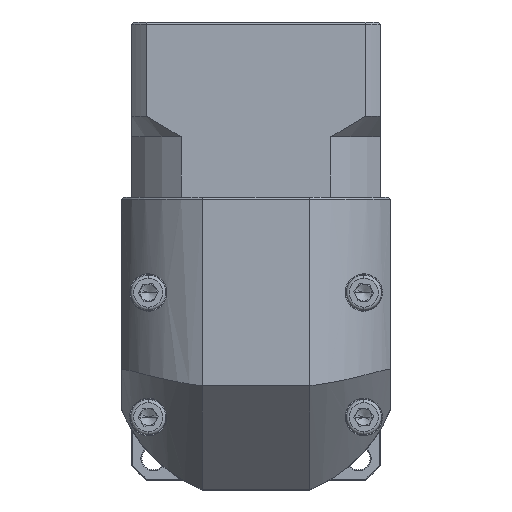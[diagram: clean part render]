
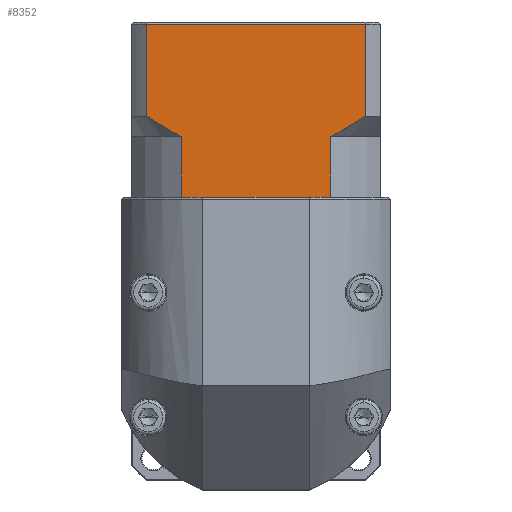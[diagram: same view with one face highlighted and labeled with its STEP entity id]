
A CAD part, top view. The second image highlights one B-rep face of the part: STEP entity #8352.
In plain terms, the highlighted planar face has unit normal (0, 0, 1).
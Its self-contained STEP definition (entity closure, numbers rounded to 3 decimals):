
#939 = ORIENTED_EDGE ( 'NONE', *, *, #84742, .F. ) ;
#1378 = EDGE_CURVE ( 'NONE', #68281, #2376, #44003, .T. ) ;
#2165 = LINE ( 'NONE', #85138, #31568 ) ;
#2376 = VERTEX_POINT ( 'NONE', #25020 ) ;
#4502 = CARTESIAN_POINT ( 'NONE',  ( -37.2, 98.893, 65.811 ) ) ;
#5467 = VECTOR ( 'NONE', #61260, 1000. ) ;
#5829 = VECTOR ( 'NONE', #82528, 1000. ) ;
#5991 = CARTESIAN_POINT ( 'NONE',  ( -90.116, 98.893, 65.811 ) ) ;
#6626 = EDGE_CURVE ( 'NONE', #29846, #10240, #33206, .T. ) ;
#7299 = CARTESIAN_POINT ( 'NONE',  ( -80.695, 57.193, 65.811 ) ) ;
#8352 = ADVANCED_FACE ( 'NONE', ( #92761 ), #57585, .F. ) ;
#9279 = DIRECTION ( 'NONE',  ( 0., 0., -1. ) ) ;
#10240 = VERTEX_POINT ( 'NONE', #28774 ) ;
#10310 = DIRECTION ( 'NONE',  ( -1., 0., 0. ) ) ;
#10465 = CARTESIAN_POINT ( 'NONE',  ( -84.569, 73.244, 65.811 ) ) ;
#14641 = CARTESIAN_POINT ( 'NONE',  ( -37.2, 76.693, 65.811 ) ) ;
#16416 = VERTEX_POINT ( 'NONE', #4502 ) ;
#17504 = AXIS2_PLACEMENT_3D ( 'NONE', #57916, #9279, #25725 ) ;
#19354 = EDGE_CURVE ( 'NONE', #16416, #87133, #22877, .T. ) ;
#20142 = ORIENTED_EDGE ( 'NONE', *, *, #84848, .T. ) ;
#20164 = CARTESIAN_POINT ( 'NONE',  ( -37.2, 76.693, 65.811 ) ) ;
#22264 = VECTOR ( 'NONE', #86123, 1000. ) ;
#22877 = LINE ( 'NONE', #26403, #95923 ) ;
#23103 = VECTOR ( 'NONE', #55889, 1000. ) ;
#24768 = ORIENTED_EDGE ( 'NONE', *, *, #57068, .T. ) ;
#25020 = CARTESIAN_POINT ( 'NONE',  ( -81.686, 71.693, 65.811 ) ) ;
#25725 = DIRECTION ( 'NONE',  ( 0., 1., 0. ) ) ;
#26403 = CARTESIAN_POINT ( 'NONE',  ( -93.658, 98.893, 65.811 ) ) ;
#27490 = EDGE_CURVE ( 'NONE', #105293, #10240, #93723, .T. ) ;
#28774 = CARTESIAN_POINT ( 'NONE',  ( -45.63, 57.193, 65.811 ) ) ;
#29846 = VERTEX_POINT ( 'NONE', #96868 ) ;
#31568 = VECTOR ( 'NONE', #36701, 1000. ) ;
#32446 = EDGE_CURVE ( 'NONE', #68281, #46059, #40862, .T. ) ;
#33153 = VERTEX_POINT ( 'NONE', #50485 ) ;
#33206 = LINE ( 'NONE', #74974, #48530 ) ;
#33767 = CARTESIAN_POINT ( 'NONE',  ( -90.116, 71.693, 65.811 ) ) ;
#35098 = CARTESIAN_POINT ( 'NONE',  ( -88.756, 75.793, 65.811 ) ) ;
#35144 = CARTESIAN_POINT ( 'NONE',  ( -38.563, 75.791, 65.811 ) ) ;
#36701 = DIRECTION ( 'NONE',  ( 1., 0., 0. ) ) ;
#37141 = LINE ( 'NONE', #72035, #23103 ) ;
#40862 = LINE ( 'NONE', #87731, #92153 ) ;
#42530 = B_SPLINE_CURVE_WITH_KNOTS ( 'NONE', 3,
 ( #84216, #35098, #85299, #10465, #43326, #100581 ),
 .UNSPECIFIED., .F., .F.,
 ( 4, 2, 4 ),
 ( 0.052, 0.057, 0.062 ),
 .UNSPECIFIED. ) ;
#43326 = CARTESIAN_POINT ( 'NONE',  ( -83.138, 72.441, 65.811 ) ) ;
#44003 = LINE ( 'NONE', #47671, #22264 ) ;
#44104 = CARTESIAN_POINT ( 'NONE',  ( -44.174, 72.443, 65.811 ) ) ;
#44432 = ORIENTED_EDGE ( 'NONE', *, *, #19354, .T. ) ;
#44636 = B_SPLINE_CURVE_WITH_KNOTS ( 'NONE', 3,
 ( #51561, #44104, #67735, #100639, #35144, #20164 ),
 .UNSPECIFIED., .F., .F.,
 ( 4, 2, 4 ),
 ( 0.1, 0.104, 0.109 ),
 .UNSPECIFIED. ) ;
#46059 = VERTEX_POINT ( 'NONE', #7299 ) ;
#46595 = CARTESIAN_POINT ( 'NONE',  ( -45.63, 71.693, 65.811 ) ) ;
#47671 = CARTESIAN_POINT ( 'NONE',  ( -81.686, 71.693, 65.811 ) ) ;
#48530 = VECTOR ( 'NONE', #83240, 1000. ) ;
#50485 = CARTESIAN_POINT ( 'NONE',  ( -90.116, 76.693, 65.811 ) ) ;
#51561 = CARTESIAN_POINT ( 'NONE',  ( -45.63, 71.693, 65.811 ) ) ;
#55889 = DIRECTION ( 'NONE',  ( 0., -1., 0. ) ) ;
#57068 = EDGE_CURVE ( 'NONE', #46059, #29846, #2165, .T. ) ;
#57585 = PLANE ( 'NONE',  #17504 ) ;
#57916 = CARTESIAN_POINT ( 'NONE',  ( -93.658, 99.393, 65.811 ) ) ;
#60837 = CARTESIAN_POINT ( 'NONE',  ( -81.686, 57.193, 65.811 ) ) ;
#61260 = DIRECTION ( 'NONE',  ( 0., -1., 0. ) ) ;
#61971 = ORIENTED_EDGE ( 'NONE', *, *, #62917, .T. ) ;
#62380 = VERTEX_POINT ( 'NONE', #14641 ) ;
#62917 = EDGE_CURVE ( 'NONE', #33153, #2376, #42530, .T. ) ;
#64293 = EDGE_CURVE ( 'NONE', #16416, #62380, #37141, .T. ) ;
#67735 = CARTESIAN_POINT ( 'NONE',  ( -42.748, 73.243, 65.811 ) ) ;
#68281 = VERTEX_POINT ( 'NONE', #60837 ) ;
#72035 = CARTESIAN_POINT ( 'NONE',  ( -37.2, 71.693, 65.811 ) ) ;
#72559 = DIRECTION ( 'NONE',  ( 1., 0., 0. ) ) ;
#74974 = CARTESIAN_POINT ( 'NONE',  ( -93.658, 57.193, 65.811 ) ) ;
#76184 = ORIENTED_EDGE ( 'NONE', *, *, #1378, .F. ) ;
#76238 = LINE ( 'NONE', #33767, #5829 ) ;
#76453 = ORIENTED_EDGE ( 'NONE', *, *, #6626, .T. ) ;
#82528 = DIRECTION ( 'NONE',  ( 0., 1., 0. ) ) ;
#83240 = DIRECTION ( 'NONE',  ( 1., 0., 0. ) ) ;
#84216 = CARTESIAN_POINT ( 'NONE',  ( -90.116, 76.693, 65.811 ) ) ;
#84742 = EDGE_CURVE ( 'NONE', #33153, #87133, #76238, .T. ) ;
#84848 = EDGE_CURVE ( 'NONE', #105293, #62380, #44636, .T. ) ;
#85138 = CARTESIAN_POINT ( 'NONE',  ( -93.658, 57.193, 65.811 ) ) ;
#85299 = CARTESIAN_POINT ( 'NONE',  ( -87.377, 74.92, 65.811 ) ) ;
#85757 = ORIENTED_EDGE ( 'NONE', *, *, #64293, .F. ) ;
#86123 = DIRECTION ( 'NONE',  ( 0., 1., 0. ) ) ;
#87133 = VERTEX_POINT ( 'NONE', #5991 ) ;
#87731 = CARTESIAN_POINT ( 'NONE',  ( -93.658, 57.193, 65.811 ) ) ;
#92153 = VECTOR ( 'NONE', #72559, 1000. ) ;
#92761 = FACE_OUTER_BOUND ( 'NONE', #97716, .T. ) ;
#93723 = LINE ( 'NONE', #104220, #5467 ) ;
#95923 = VECTOR ( 'NONE', #10310, 1000. ) ;
#96868 = CARTESIAN_POINT ( 'NONE',  ( -46.621, 57.193, 65.811 ) ) ;
#97320 = ORIENTED_EDGE ( 'NONE', *, *, #27490, .F. ) ;
#97716 = EDGE_LOOP ( 'NONE', ( #85757, #44432, #939, #61971, #76184, #99276, #24768, #76453, #97320, #20142 ) ) ;
#99276 = ORIENTED_EDGE ( 'NONE', *, *, #32446, .T. ) ;
#100581 = CARTESIAN_POINT ( 'NONE',  ( -81.686, 71.693, 65.811 ) ) ;
#100639 = CARTESIAN_POINT ( 'NONE',  ( -39.943, 74.918, 65.811 ) ) ;
#104220 = CARTESIAN_POINT ( 'NONE',  ( -45.63, 71.693, 65.811 ) ) ;
#105293 = VERTEX_POINT ( 'NONE', #46595 ) ;
